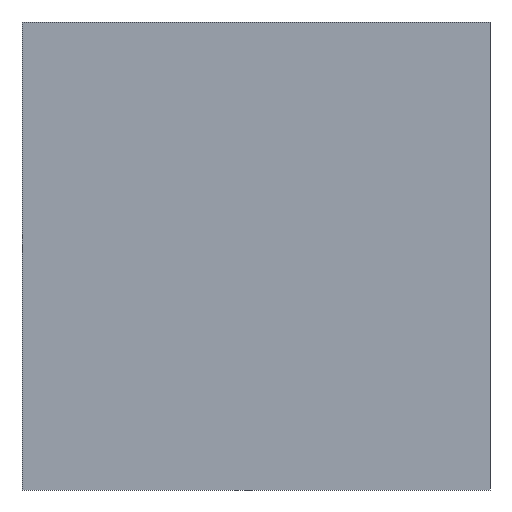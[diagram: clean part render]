
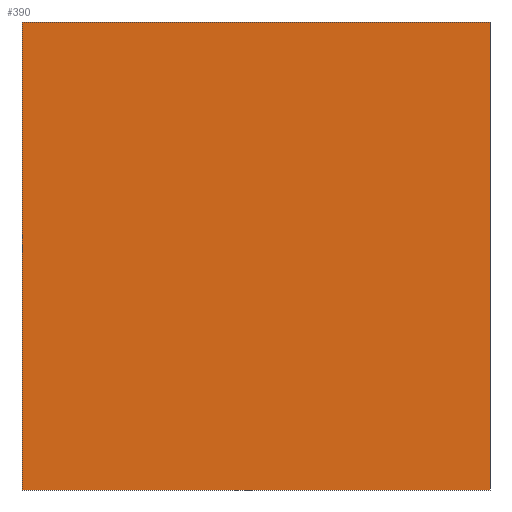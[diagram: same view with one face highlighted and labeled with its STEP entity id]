
A CAD part, front view. The second image highlights one B-rep face of the part: STEP entity #390.
In plain terms, the highlighted planar face has unit normal (0, -1, 0).
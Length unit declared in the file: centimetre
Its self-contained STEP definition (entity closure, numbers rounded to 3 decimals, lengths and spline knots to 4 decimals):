
#19 = VERTEX_POINT ( 'NONE', #1381 ) ;
#47 = EDGE_CURVE ( 'NONE', #19, #1065, #1121, .T. ) ;
#82 = EDGE_CURVE ( 'NONE', #1203, #168, #548, .T. ) ;
#109 = LINE ( 'NONE', #571, #733 ) ;
#168 = VERTEX_POINT ( 'NONE', #1463 ) ;
#199 = PLANE ( 'NONE',  #1166 ) ;
#219 = DIRECTION ( 'NONE',  ( 1., 0., 0. ) ) ;
#243 = CARTESIAN_POINT ( 'NONE',  ( 1000., 0., 1000. ) ) ;
#295 = EDGE_LOOP ( 'NONE', ( #721, #735, #1299, #863 ) ) ;
#303 = CARTESIAN_POINT ( 'NONE',  ( 0., 0., 1000. ) ) ;
#310 = DIRECTION ( 'NONE',  ( 0., 0., 1. ) ) ;
#390 = ADVANCED_FACE ( 'NONE', ( #988 ), #199, .F. ) ;
#510 = EDGE_CURVE ( 'NONE', #1065, #168, #663, .T. ) ;
#548 = LINE ( 'NONE', #1220, #1431 ) ;
#559 = CARTESIAN_POINT ( 'NONE',  ( 0., 0., 0. ) ) ;
#571 = CARTESIAN_POINT ( 'NONE',  ( 0., 0., 1000. ) ) ;
#663 = LINE ( 'NONE', #559, #1158 ) ;
#721 = ORIENTED_EDGE ( 'NONE', *, *, #510, .T. ) ;
#733 = VECTOR ( 'NONE', #896, 100. ) ;
#735 = ORIENTED_EDGE ( 'NONE', *, *, #82, .F. ) ;
#863 = ORIENTED_EDGE ( 'NONE', *, *, #47, .T. ) ;
#877 = DIRECTION ( 'NONE',  ( 0., 0., -1. ) ) ;
#896 = DIRECTION ( 'NONE',  ( 1., 0., 0. ) ) ;
#988 = FACE_OUTER_BOUND ( 'NONE', #295, .T. ) ;
#1060 = CARTESIAN_POINT ( 'NONE',  ( 0., 0., 0. ) ) ;
#1065 = VERTEX_POINT ( 'NONE', #1060 ) ;
#1121 = LINE ( 'NONE', #1456, #1376 ) ;
#1130 = DIRECTION ( 'NONE',  ( 0., 0., -1. ) ) ;
#1131 = EDGE_CURVE ( 'NONE', #19, #1203, #109, .T. ) ;
#1158 = VECTOR ( 'NONE', #219, 100. ) ;
#1166 = AXIS2_PLACEMENT_3D ( 'NONE', #303, #1219, #310 ) ;
#1203 = VERTEX_POINT ( 'NONE', #243 ) ;
#1219 = DIRECTION ( 'NONE',  ( 0., 1., 0. ) ) ;
#1220 = CARTESIAN_POINT ( 'NONE',  ( 1000., 0., 1000. ) ) ;
#1299 = ORIENTED_EDGE ( 'NONE', *, *, #1131, .F. ) ;
#1376 = VECTOR ( 'NONE', #1130, 100. ) ;
#1381 = CARTESIAN_POINT ( 'NONE',  ( 0., 0., 1000. ) ) ;
#1431 = VECTOR ( 'NONE', #877, 100. ) ;
#1456 = CARTESIAN_POINT ( 'NONE',  ( 0., 0., 1000. ) ) ;
#1463 = CARTESIAN_POINT ( 'NONE',  ( 1000., 0., 0. ) ) ;
